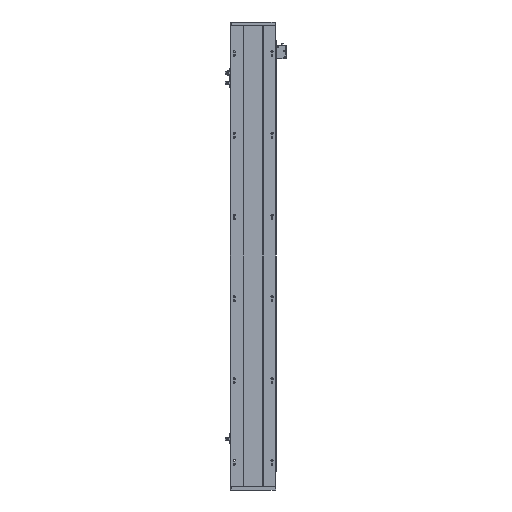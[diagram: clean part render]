
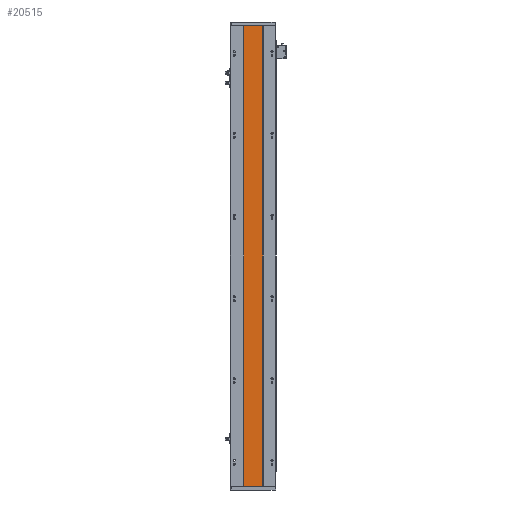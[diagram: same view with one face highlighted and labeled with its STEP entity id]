
A CAD part, front view. The second image highlights one B-rep face of the part: STEP entity #20515.
In plain terms, the highlighted planar face has unit normal (0, -1, 0).
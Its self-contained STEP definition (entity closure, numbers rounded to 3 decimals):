
#142 = ORIENTED_EDGE ( 'NONE', *, *, #2324, .T. ) ;
#612 = ORIENTED_EDGE ( 'NONE', *, *, #7838, .T. ) ;
#976 = EDGE_CURVE ( 'NONE', #1982, #10171, #15500, .T. ) ;
#1982 = VERTEX_POINT ( 'NONE', #3067 ) ;
#2324 = EDGE_CURVE ( 'NONE', #21048, #25124, #9269, .T. ) ;
#2433 = DIRECTION ( 'NONE',  ( 0., 1., 0. ) ) ;
#3067 = CARTESIAN_POINT ( 'NONE',  ( 183.063, 115.96, 1216. ) ) ;
#3362 = CARTESIAN_POINT ( 'NONE',  ( 133.07, 115.96, 0. ) ) ;
#3947 = DIRECTION ( 'NONE',  ( 1., 0., 0. ) ) ;
#4038 = DIRECTION ( 'NONE',  ( 1., 0., 0. ) ) ;
#4092 = ORIENTED_EDGE ( 'NONE', *, *, #19390, .F. ) ;
#4491 = VECTOR ( 'NONE', #23792, 1000. ) ;
#5003 = FACE_OUTER_BOUND ( 'NONE', #10010, .T. ) ;
#5656 = ORIENTED_EDGE ( 'NONE', *, *, #976, .F. ) ;
#5781 = LINE ( 'NONE', #6225, #8999 ) ;
#6225 = CARTESIAN_POINT ( 'NONE',  ( 0., 115.96, 1216. ) ) ;
#6434 = PLANE ( 'NONE',  #18397 ) ;
#7838 = EDGE_CURVE ( 'NONE', #25124, #10171, #24227, .T. ) ;
#8478 = DIRECTION ( 'NONE',  ( -1., 0., 0. ) ) ;
#8568 = CARTESIAN_POINT ( 'NONE',  ( 0., 115.96, 1216. ) ) ;
#8999 = VECTOR ( 'NONE', #4038, 1000. ) ;
#9269 = LINE ( 'NONE', #25463, #16100 ) ;
#10010 = EDGE_LOOP ( 'NONE', ( #612, #5656, #4092, #142 ) ) ;
#10171 = VERTEX_POINT ( 'NONE', #21576 ) ;
#11072 = CARTESIAN_POINT ( 'NONE',  ( 183.063, 115.96, 1216. ) ) ;
#15460 = CARTESIAN_POINT ( 'NONE',  ( 133.07, 115.96, 1216. ) ) ;
#15500 = LINE ( 'NONE', #11072, #4491 ) ;
#16100 = VECTOR ( 'NONE', #19582, 1000. ) ;
#16445 = CARTESIAN_POINT ( 'NONE',  ( 0., 115.96, 0. ) ) ;
#18397 = AXIS2_PLACEMENT_3D ( 'NONE', #8568, #2433, #8478 ) ;
#19390 = EDGE_CURVE ( 'NONE', #21048, #1982, #5781, .T. ) ;
#19582 = DIRECTION ( 'NONE',  ( 0., 0., -1. ) ) ;
#20515 = ADVANCED_FACE ( 'NONE', ( #5003 ), #6434, .F. ) ;
#21048 = VERTEX_POINT ( 'NONE', #15460 ) ;
#21576 = CARTESIAN_POINT ( 'NONE',  ( 183.063, 115.96, 0. ) ) ;
#22946 = VECTOR ( 'NONE', #3947, 1000. ) ;
#23792 = DIRECTION ( 'NONE',  ( 0., 0., -1. ) ) ;
#24227 = LINE ( 'NONE', #16445, #22946 ) ;
#25124 = VERTEX_POINT ( 'NONE', #3362 ) ;
#25463 = CARTESIAN_POINT ( 'NONE',  ( 133.07, 115.96, 1216. ) ) ;
